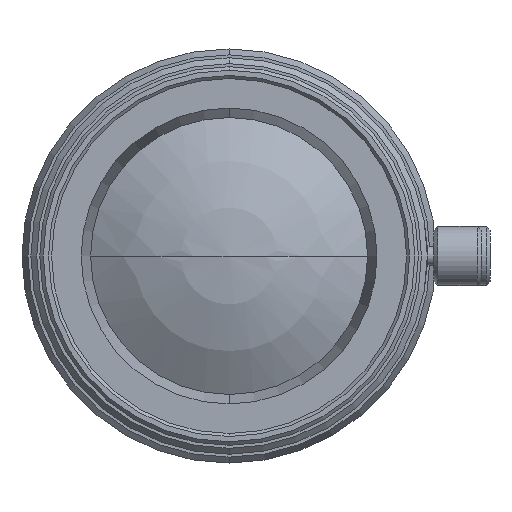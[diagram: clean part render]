
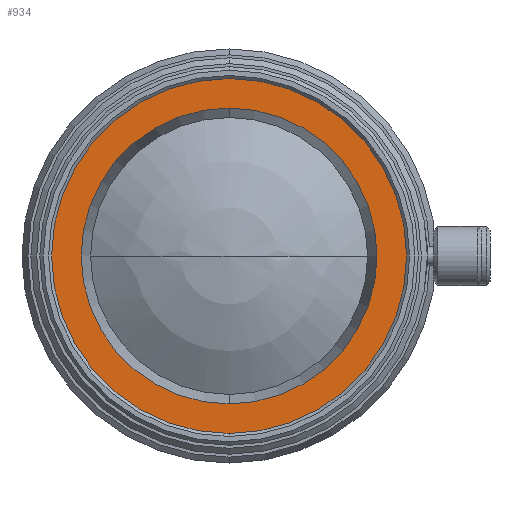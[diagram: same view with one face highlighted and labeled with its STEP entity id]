
A CAD part, left-side view. The second image highlights one B-rep face of the part: STEP entity #934.
In plain terms, the highlighted planar face has unit normal (-1, 0, 0).
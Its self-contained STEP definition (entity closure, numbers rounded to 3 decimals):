
#52 = EDGE_LOOP ( 'NONE', ( #935, #1106 ) ) ;
#98 = ORIENTED_EDGE ( 'NONE', *, *, #2505, .T. ) ;
#195 = CARTESIAN_POINT ( 'NONE',  ( -30.002, 415.653, 12.5 ) ) ;
#278 = AXIS2_PLACEMENT_3D ( 'NONE', #1892, #2385, #3163 ) ;
#622 = VERTEX_POINT ( 'NONE', #1982 ) ;
#706 = CARTESIAN_POINT ( 'NONE',  ( -30.002, 415.653, 0. ) ) ;
#934 = ADVANCED_FACE ( 'NONE', ( #1011, #1729 ), #2732, .F. ) ;
#935 = ORIENTED_EDGE ( 'NONE', *, *, #2201, .F. ) ;
#996 = CARTESIAN_POINT ( 'NONE',  ( -30.002, 415.653, -12.5 ) ) ;
#1008 = VERTEX_POINT ( 'NONE', #996 ) ;
#1011 = FACE_BOUND ( 'NONE', #52, .T. ) ;
#1106 = ORIENTED_EDGE ( 'NONE', *, *, #2443, .F. ) ;
#1112 = CARTESIAN_POINT ( 'NONE',  ( -30.002, 415.653, 0. ) ) ;
#1127 = AXIS2_PLACEMENT_3D ( 'NONE', #2261, #2719, #1767 ) ;
#1193 = EDGE_LOOP ( 'NONE', ( #3207, #98 ) ) ;
#1323 = DIRECTION ( 'NONE',  ( -1., 0., 0. ) ) ;
#1405 = DIRECTION ( 'NONE',  ( 0., 0., 1. ) ) ;
#1610 = CIRCLE ( 'NONE', #1876, 15.25 ) ;
#1708 = CIRCLE ( 'NONE', #278, 15.25 ) ;
#1729 = FACE_OUTER_BOUND ( 'NONE', #1193, .T. ) ;
#1767 = DIRECTION ( 'NONE',  ( 0., 1., 0. ) ) ;
#1847 = DIRECTION ( 'NONE',  ( 0., 0., 1. ) ) ;
#1876 = AXIS2_PLACEMENT_3D ( 'NONE', #706, #2652, #2140 ) ;
#1892 = CARTESIAN_POINT ( 'NONE',  ( -30.002, 415.653, 0. ) ) ;
#1970 = CIRCLE ( 'NONE', #2562, 12.5 ) ;
#1982 = CARTESIAN_POINT ( 'NONE',  ( -30.002, 415.653, 15.25 ) ) ;
#2140 = DIRECTION ( 'NONE',  ( 0., 0., 1. ) ) ;
#2185 = CIRCLE ( 'NONE', #2762, 12.5 ) ;
#2201 = EDGE_CURVE ( 'NONE', #2813, #1008, #2185, .T. ) ;
#2207 = CARTESIAN_POINT ( 'NONE',  ( -30.002, 415.653, -15.25 ) ) ;
#2261 = CARTESIAN_POINT ( 'NONE',  ( -30.002, 428.153, 0. ) ) ;
#2385 = DIRECTION ( 'NONE',  ( -1., 0., 0. ) ) ;
#2443 = EDGE_CURVE ( 'NONE', #1008, #2813, #1970, .T. ) ;
#2459 = CARTESIAN_POINT ( 'NONE',  ( -30.002, 415.653, 0. ) ) ;
#2505 = EDGE_CURVE ( 'NONE', #2513, #622, #1610, .T. ) ;
#2513 = VERTEX_POINT ( 'NONE', #2207 ) ;
#2562 = AXIS2_PLACEMENT_3D ( 'NONE', #1112, #1323, #1847 ) ;
#2652 = DIRECTION ( 'NONE',  ( -1., 0., 0. ) ) ;
#2719 = DIRECTION ( 'NONE',  ( 1., 0., 0. ) ) ;
#2720 = DIRECTION ( 'NONE',  ( -1., 0., 0. ) ) ;
#2732 = PLANE ( 'NONE',  #1127 ) ;
#2762 = AXIS2_PLACEMENT_3D ( 'NONE', #2459, #2720, #1405 ) ;
#2813 = VERTEX_POINT ( 'NONE', #195 ) ;
#2986 = EDGE_CURVE ( 'NONE', #622, #2513, #1708, .T. ) ;
#3163 = DIRECTION ( 'NONE',  ( 0., 0., 1. ) ) ;
#3207 = ORIENTED_EDGE ( 'NONE', *, *, #2986, .T. ) ;
